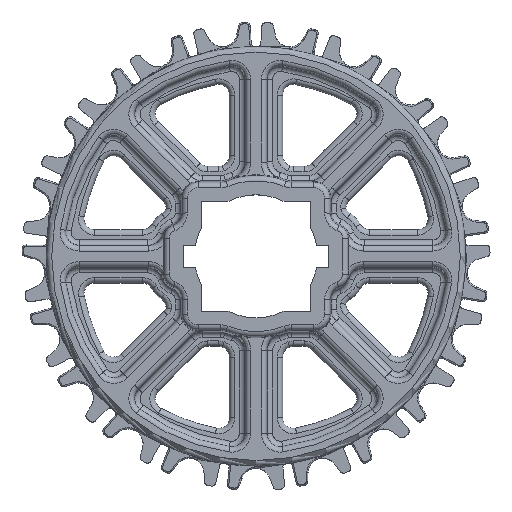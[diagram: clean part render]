
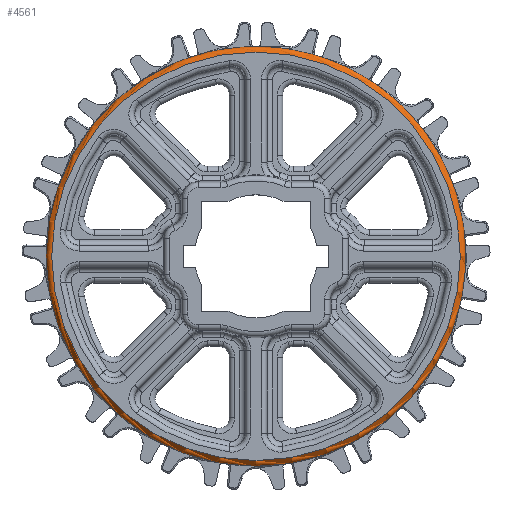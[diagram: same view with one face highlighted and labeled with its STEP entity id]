
A CAD part, top view. The second image highlights one B-rep face of the part: STEP entity #4561.
In plain terms, the highlighted toroidal (fillet/blend) face has major radius 75.5 mm and minor radius 2 mm.
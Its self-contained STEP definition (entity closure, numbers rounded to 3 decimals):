
#618=TOROIDAL_SURFACE('',#30270,75.5,2.);
#2165=FACE_BOUND('',#8447,.T.);
#2166=FACE_BOUND('',#8448,.T.);
#4561=ADVANCED_FACE('',(#2165,#2166),#618,.T.);
#8447=EDGE_LOOP('',(#16459));
#8448=EDGE_LOOP('',(#16460));
#9324=CIRCLE('',#28491,75.5);
#9389=CIRCLE('',#28598,77.5);
#16459=ORIENTED_EDGE('',*,*,#22212,.F.);
#16460=ORIENTED_EDGE('',*,*,#22354,.F.);
#19456=VERTEX_POINT('',#42645);
#19593=VERTEX_POINT('',#43152);
#22212=EDGE_CURVE('',#19456,#19456,#9324,.T.);
#22354=EDGE_CURVE('',#19593,#19593,#9389,.T.);
#28491=AXIS2_PLACEMENT_3D('',#42644,#32946,#32947);
#28598=AXIS2_PLACEMENT_3D('',#43151,#33198,#33199);
#30270=AXIS2_PLACEMENT_3D('',#53888,#37318,#37319);
#32946=DIRECTION('',(0.,0.,1.));
#32947=DIRECTION('',(-1.,0.,0.));
#33198=DIRECTION('',(0.,0.,-1.));
#33199=DIRECTION('',(-1.,0.,0.));
#37318=DIRECTION('',(0.,0.,-1.));
#37319=DIRECTION('',(-1.,0.,0.));
#42644=CARTESIAN_POINT('',(0.,0.,10.5));
#42645=CARTESIAN_POINT('',(-75.5,0.,10.5));
#43151=CARTESIAN_POINT('',(0.,0.,8.5));
#43152=CARTESIAN_POINT('',(-77.5,0.,8.5));
#53888=CARTESIAN_POINT('',(0.,0.,8.5));
